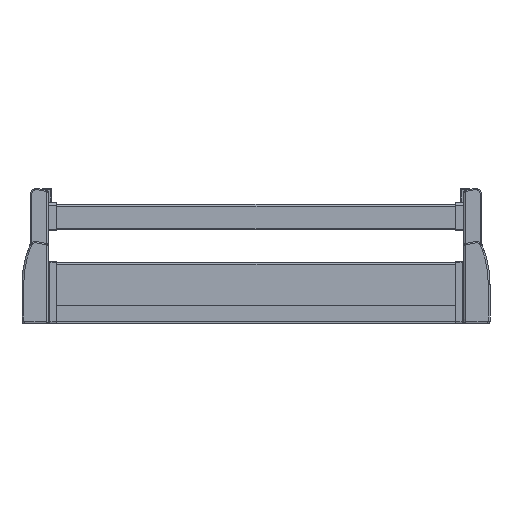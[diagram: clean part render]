
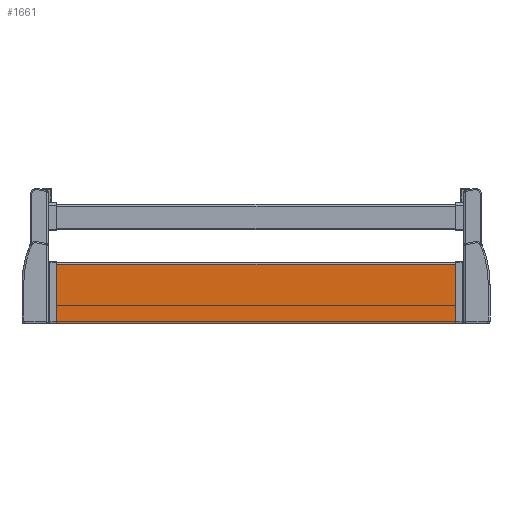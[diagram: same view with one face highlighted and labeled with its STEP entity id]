
A CAD part, top view. The second image highlights one B-rep face of the part: STEP entity #1661.
In plain terms, the highlighted planar face has unit normal (0, 0, 1).
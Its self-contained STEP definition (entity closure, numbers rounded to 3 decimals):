
#1397 = EDGE_CURVE ( 'NONE', #1553, #1555, #4385, .T. ) ;
#1553 = VERTEX_POINT ( 'NONE', #4502 ) ;
#1555 = VERTEX_POINT ( 'NONE', #4501 ) ;
#1661 = ADVANCED_FACE ( 'NONE', ( #4738 ), #4733, .F. ) ;
#1662 = EDGE_LOOP ( 'NONE', ( #1663, #1714, #1715, #1718 ) ) ;
#1663 = ORIENTED_EDGE ( 'NONE', *, *, #1709, .F. ) ;
#1709 = EDGE_CURVE ( 'NONE', #1553, #1710, #5322, .T. ) ;
#1710 = VERTEX_POINT ( 'NONE', #5316 ) ;
#1714 = ORIENTED_EDGE ( 'NONE', *, *, #1397, .T. ) ;
#1715 = ORIENTED_EDGE ( 'NONE', *, *, #1716, .T. ) ;
#1716 = EDGE_CURVE ( 'NONE', #1555, #1717, #5312, .T. ) ;
#1717 = VERTEX_POINT ( 'NONE', #5306 ) ;
#1718 = ORIENTED_EDGE ( 'NONE', *, *, #1744, .F. ) ;
#1744 = EDGE_CURVE ( 'NONE', #1710, #1717, #5263, .T. ) ;
#4382 = DIRECTION ( 'NONE',  ( 0., 1., 0. ) ) ;
#4383 = VECTOR ( 'NONE', #4382, 1000. ) ;
#4384 = CARTESIAN_POINT ( 'NONE',  ( 235.8, -92.5, 1.4 ) ) ;
#4385 = LINE ( 'NONE', #4384, #4383 ) ;
#4501 = CARTESIAN_POINT ( 'NONE',  ( 235.8, -23., 1.4 ) ) ;
#4502 = CARTESIAN_POINT ( 'NONE',  ( 235.8, -92.5, 1.4 ) ) ;
#4728 = DIRECTION ( 'NONE',  ( 0., 1., 0. ) ) ;
#4729 = DIRECTION ( 'NONE',  ( 0., 0., -1. ) ) ;
#4730 = CARTESIAN_POINT ( 'NONE',  ( 309.556, -92.5, 1.4 ) ) ;
#4731 = AXIS2_PLACEMENT_3D ( 'NONE', #4730, #4729, #4728 ) ;
#4733 = PLANE ( 'NONE',  #4731 ) ;
#4738 = FACE_OUTER_BOUND ( 'NONE', #1662, .T. ) ;
#5260 = DIRECTION ( 'NONE',  ( 0., 1., 0. ) ) ;
#5261 = VECTOR ( 'NONE', #5260, 1000. ) ;
#5262 = CARTESIAN_POINT ( 'NONE',  ( -235.8, -92.5, 1.4 ) ) ;
#5263 = LINE ( 'NONE', #5262, #5261 ) ;
#5306 = CARTESIAN_POINT ( 'NONE',  ( -235.8, -23., 1.4 ) ) ;
#5307 = DIRECTION ( 'NONE',  ( -1., 0., 0. ) ) ;
#5308 = VECTOR ( 'NONE', #5307, 1000. ) ;
#5310 = CARTESIAN_POINT ( 'NONE',  ( 309.556, -23., 1.4 ) ) ;
#5312 = LINE ( 'NONE', #5310, #5308 ) ;
#5316 = CARTESIAN_POINT ( 'NONE',  ( -235.8, -92.5, 1.4 ) ) ;
#5317 = DIRECTION ( 'NONE',  ( -1., 0., 0. ) ) ;
#5319 = VECTOR ( 'NONE', #5317, 1000. ) ;
#5320 = CARTESIAN_POINT ( 'NONE',  ( 309.556, -92.5, 1.4 ) ) ;
#5322 = LINE ( 'NONE', #5320, #5319 ) ;
